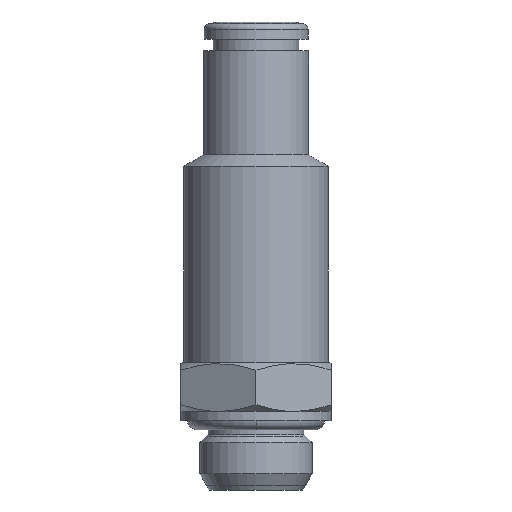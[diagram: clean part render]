
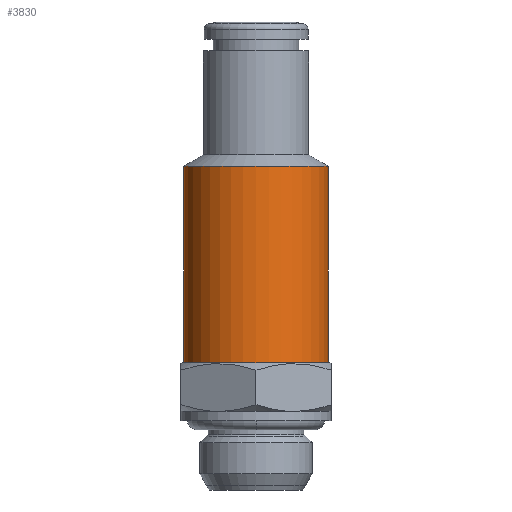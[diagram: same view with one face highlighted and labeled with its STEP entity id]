
A CAD part, left-side view. The second image highlights one B-rep face of the part: STEP entity #3830.
In plain terms, the highlighted cylindrical face has radius 6.25 mm (diameter 12.5 mm), a full revolution.
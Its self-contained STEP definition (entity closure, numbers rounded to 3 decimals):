
#3830=ADVANCED_FACE('', (#3840,#3850,#3860), #3870, .T.);
#10030=AXIS2_PLACEMENT_3D('Ax2Pl3d', #10040, #10050, #10060);
#11990=AXIS2_PLACEMENT_3D('Ax2Pl3d', #12000, #12010, #12020);
#12030=AXIS2_PLACEMENT_3D('Ax2Pl3d', #12040, #12050, #12060);
#12070=AXIS2_PLACEMENT_3D('Ax2Pl3d', #12080, #12090, #12100);
#12110=AXIS2_PLACEMENT_3D('Ax2Pl3d', #12120, #12130, #12140);
#10040=CARTESIAN_POINT('HicPkt', (10.661,14.3,
14.525));
#20560=CARTESIAN_POINT('', (16.911,14.3,14.525));
#12000=CARTESIAN_POINT('HicPkt', (10.661,14.3,
23.525));
#20810=CARTESIAN_POINT('', (10.661,8.05,23.525));
#20820=CARTESIAN_POINT('', (10.661,20.55,23.525));
#12040=CARTESIAN_POINT('HicPkt', (10.661,14.3,
23.525));
#12080=CARTESIAN_POINT('HicPkt', (10.661,14.3,
31.544));
#12120=CARTESIAN_POINT('HicPkt', (10.661,14.3,
31.544));
#20830=CARTESIAN_POINT('', (16.911,14.3,31.544));
#21520=CIRCLE('Circle', #10030, 6.25);
#21770=CIRCLE('Circle', #12110, 6.25);
#3870=CYLINDRICAL_SURFACE('Zyl', #12070, 6.25);
#10050=DIRECTION('Axis', (0.,0.,1.));
#10060=DIRECTION('RefDirection', (1.,0.,-0.));
#12010=DIRECTION('Axis', (0.707,0.,0.707));
#12020=DIRECTION('RefDirection', (0.707,0.,-0.707));
#12050=DIRECTION('Axis', (0.707,0.,-0.707));
#12060=DIRECTION('RefDirection', (0.707,0.,0.707));
#12090=DIRECTION('Axis', (0.,0.,-1.));
#12100=DIRECTION('RefDirection', (-1.,-0.,0.));
#12130=DIRECTION('Axis', (0.,0.,1.));
#12140=DIRECTION('RefDirection', (1.,0.,-0.));
#27280=EDGE_CURVE('', #27290, #27290, #21520, .T.);
#27780=EDGE_CURVE('', #27790, #27800, #27810, .T.);
#27820=EDGE_CURVE('', #27800, #27790, #27830, .T.);
#27840=EDGE_CURVE('', #27850, #27850, #21770, .T.);
#31910=EDGE_LOOP('Edge_loop', (#31920));
#31930=EDGE_LOOP('Edge_loop', (#31940));
#31950=EDGE_LOOP('Edge_loop', (#31960,#31970));
#27810=ELLIPSE('Ellipse', #11990, 8.839, 6.25);
#27830=ELLIPSE('Ellipse', #12030, 8.839, 6.25);
#3850=FACE_BOUND('', #31930, .T.);
#3860=FACE_BOUND('', #31950, .T.);
#3840=FACE_OUTER_BOUND('Face_outer_bound', #31910, .T.);
#31920=ORIENTED_EDGE('', *, *, #27840, .F.);
#31940=ORIENTED_EDGE('', *, *, #27280, .T.);
#31960=ORIENTED_EDGE('', *, *, #27780, .F.);
#31970=ORIENTED_EDGE('', *, *, #27820, .F.);
#27290=VERTEX_POINT('', #20560);
#27790=VERTEX_POINT('', #20810);
#27800=VERTEX_POINT('', #20820);
#27850=VERTEX_POINT('', #20830);
